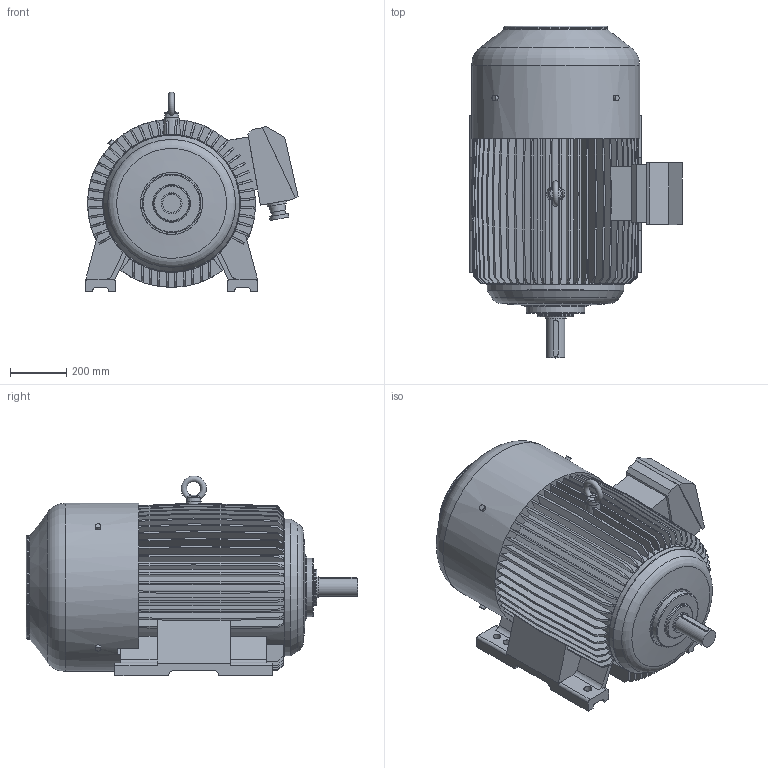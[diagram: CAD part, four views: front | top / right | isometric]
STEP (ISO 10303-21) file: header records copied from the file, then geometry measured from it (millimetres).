
FILE_DESCRIPTION(/* description */ ('Unknown'),/* implementation_level */ '2;1');
FILE_NAME(/* name */ '2Sg 315 S_M2',/* time_stamp */ '2016-09-28T12:36:12+02:00',/* author */ ('Unknown'),/* organization */ ('Unknown'),/* preprocessor_version */ 'ST-DEVELOPER v16',/* originating_system */ 'DEX',/* authorisation */ $);
FILE_SCHEMA (('AUTOMOTIVE_DESIGN {1 0 10303 214 3 1 1}'));
Length unit declared in the file: millimetre
Products named in the file (1): 2Sg 315 S_M2
Bounding box: 755 x 1180 x 710.97 mm (x, y, z)
Volume: 244439364.3 mm3; surface area: 5280325.3 mm2
Topology: 3 solids, 3 shells, 509 faces, 1444 edges, 959 vertices
Faces by surface type: plane 420, cylinder 71, torus 12, cone 6
Full cylindrical faces by diameter (mm): 20 x4, 28 x6, 38.722 x2, 48.628 x2, 55.029 x2, 65 x1, 67.566 x2, 68.767 x2, 75 x1, 127.917 x1, 208.53 x1, 367.437 x1, 486 x1, 490 x1, 598 x1
Entity records: 19359 total; most frequent: CARTESIAN_POINT 6139, ORIENTED_EDGE 2770, DIRECTION 2633, EDGE_CURVE 1385, LINE 1085, VECTOR 1085, VERTEX_POINT 944, AXIS2_PLACEMENT_3D 774
